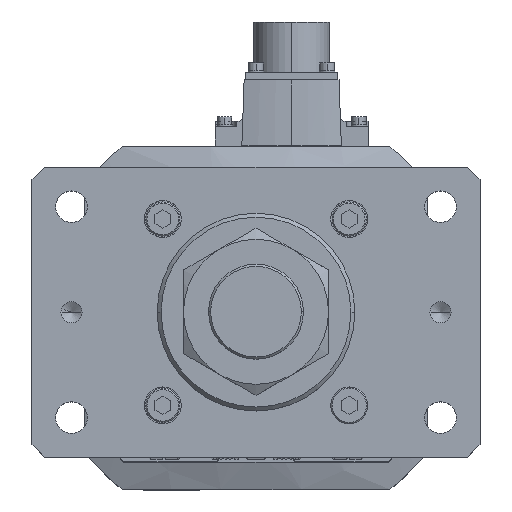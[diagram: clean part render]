
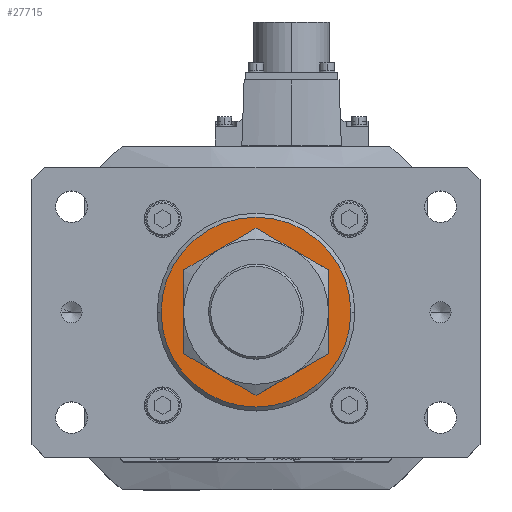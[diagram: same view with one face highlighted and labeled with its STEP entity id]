
A CAD part, top view. The second image highlights one B-rep face of the part: STEP entity #27715.
In plain terms, the highlighted planar face has unit normal (0, 0, 1).
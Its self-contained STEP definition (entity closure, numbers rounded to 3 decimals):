
#119 = DIRECTION ( 'NONE',  ( 1., 0., 0. ) ) ;
#1349 = EDGE_CURVE ( 'NONE', #2683, #36961, #1500, .T. ) ;
#1500 = CIRCLE ( 'NONE', #7800, 36. ) ;
#1768 = EDGE_CURVE ( 'NONE', #36961, #2683, #3431, .T. ) ;
#2365 = CARTESIAN_POINT ( 'NONE',  ( 23., 0., 1046. ) ) ;
#2683 = VERTEX_POINT ( 'NONE', #12146 ) ;
#2702 = CARTESIAN_POINT ( 'NONE',  ( 0., 0., 1046. ) ) ;
#2834 = DIRECTION ( 'NONE',  ( 0., 0., -1. ) ) ;
#2874 = CARTESIAN_POINT ( 'NONE',  ( 0., 0., 1046. ) ) ;
#2908 = AXIS2_PLACEMENT_3D ( 'NONE', #2702, #2834, #11284 ) ;
#2929 = DIRECTION ( 'NONE',  ( 0., 0., 1. ) ) ;
#3261 = VERTEX_POINT ( 'NONE', #20887 ) ;
#3431 = CIRCLE ( 'NONE', #33727, 36. ) ;
#4030 = CIRCLE ( 'NONE', #2908, 23. ) ;
#4134 = DIRECTION ( 'NONE',  ( 0., 0., 1. ) ) ;
#5400 = ORIENTED_EDGE ( 'NONE', *, *, #16443, .T. ) ;
#5698 = VERTEX_POINT ( 'NONE', #2365 ) ;
#6872 = EDGE_LOOP ( 'NONE', ( #36776, #11295 ) ) ;
#7800 = AXIS2_PLACEMENT_3D ( 'NONE', #21204, #4134, #32722 ) ;
#11284 = DIRECTION ( 'NONE',  ( 1., 0., 0. ) ) ;
#11295 = ORIENTED_EDGE ( 'NONE', *, *, #1349, .T. ) ;
#12146 = CARTESIAN_POINT ( 'NONE',  ( 36., 0., 1046. ) ) ;
#13064 = ORIENTED_EDGE ( 'NONE', *, *, #32247, .T. ) ;
#13731 = FACE_BOUND ( 'NONE', #15598, .T. ) ;
#14388 = DIRECTION ( 'NONE',  ( 1., 0., 0. ) ) ;
#15598 = EDGE_LOOP ( 'NONE', ( #13064, #5400 ) ) ;
#16443 = EDGE_CURVE ( 'NONE', #3261, #5698, #25027, .T. ) ;
#18327 = DIRECTION ( 'NONE',  ( 1., 0., 0. ) ) ;
#20887 = CARTESIAN_POINT ( 'NONE',  ( -23., 0., 1046. ) ) ;
#21204 = CARTESIAN_POINT ( 'NONE',  ( 0., 0., 1046. ) ) ;
#22783 = PLANE ( 'NONE',  #27889 ) ;
#25027 = CIRCLE ( 'NONE', #36843, 23. ) ;
#25493 = CARTESIAN_POINT ( 'NONE',  ( -36., 0., 1046. ) ) ;
#25663 = CARTESIAN_POINT ( 'NONE',  ( 0., 0., 1046. ) ) ;
#27715 = ADVANCED_FACE ( 'NONE', ( #13731, #30275 ), #22783, .T. ) ;
#27889 = AXIS2_PLACEMENT_3D ( 'NONE', #25663, #2929, #14388 ) ;
#28583 = DIRECTION ( 'NONE',  ( 0., 0., 1. ) ) ;
#29966 = DIRECTION ( 'NONE',  ( 0., 0., -1. ) ) ;
#30275 = FACE_OUTER_BOUND ( 'NONE', #6872, .T. ) ;
#32247 = EDGE_CURVE ( 'NONE', #5698, #3261, #4030, .T. ) ;
#32722 = DIRECTION ( 'NONE',  ( 1., 0., 0. ) ) ;
#33727 = AXIS2_PLACEMENT_3D ( 'NONE', #2874, #28583, #119 ) ;
#35497 = CARTESIAN_POINT ( 'NONE',  ( 0., 0., 1046. ) ) ;
#36776 = ORIENTED_EDGE ( 'NONE', *, *, #1768, .T. ) ;
#36843 = AXIS2_PLACEMENT_3D ( 'NONE', #35497, #29966, #18327 ) ;
#36961 = VERTEX_POINT ( 'NONE', #25493 ) ;
